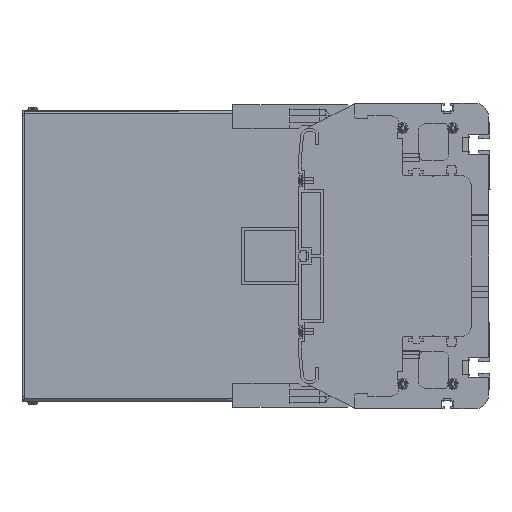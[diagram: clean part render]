
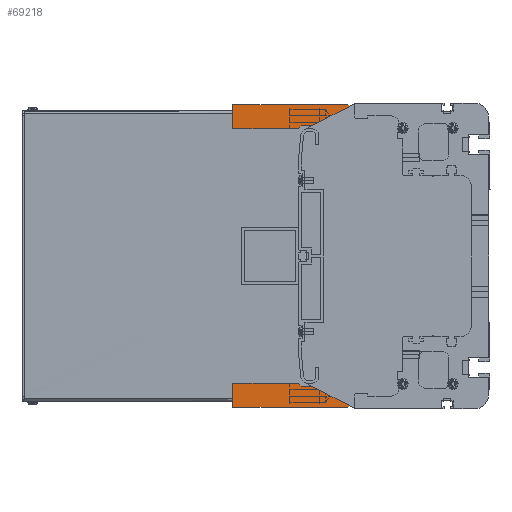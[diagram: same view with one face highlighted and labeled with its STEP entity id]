
A CAD part, left-side view. The second image highlights one B-rep face of the part: STEP entity #69218.
In plain terms, the highlighted planar face has unit normal (-1, 0, 0).
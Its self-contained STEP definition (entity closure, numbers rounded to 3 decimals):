
#64742=DIRECTION('',(0.,0.,1.));
#64743=VECTOR('',#64742,134.);
#64744=CARTESIAN_POINT('',(-434.5,111.,-67.));
#64745=LINE('',#64744,#64743);
#65007=DIRECTION('',(0.,1.,0.));
#65008=VECTOR('',#65007,46.);
#65009=CARTESIAN_POINT('',(-434.5,134.,-89.));
#65010=LINE('',#65009,#65008);
#65232=DIRECTION('',(0.,0.,1.));
#65233=VECTOR('',#65232,13.);
#65234=CARTESIAN_POINT('',(-434.5,114.5,-86.));
#65235=LINE('',#65234,#65233);
#65368=DIRECTION('',(0.,1.,0.));
#65369=VECTOR('',#65368,79.);
#65370=CARTESIAN_POINT('',(-434.5,101.,-106.));
#65371=LINE('',#65370,#65369);
#65372=DIRECTION('',(0.,-0.707,-0.707));
#65373=VECTOR('',#65372,2.828);
#65374=CARTESIAN_POINT('',(-434.5,134.,-89.));
#65375=LINE('',#65374,#65373);
#65376=CARTESIAN_POINT('',(-434.5,119.5,-86.));
#65377=DIRECTION('',(-1.,0.,0.));
#65378=DIRECTION('',(0.,0.,-1.));
#65379=AXIS2_PLACEMENT_3D('',#65376,#65377,#65378);
#65381=CARTESIAN_POINT('',(-434.5,119.5,86.));
#65382=DIRECTION('',(-1.,0.,0.));
#65383=DIRECTION('',(0.,-1.,0.));
#65384=AXIS2_PLACEMENT_3D('',#65381,#65382,#65383);
#65386=DIRECTION('',(0.,0.707,-0.707));
#65387=VECTOR('',#65386,2.828);
#65388=CARTESIAN_POINT('',(-434.5,132.,91.));
#65389=LINE('',#65388,#65387);
#65390=DIRECTION('',(0.,0.,-1.));
#65391=VECTOR('',#65390,17.);
#65392=CARTESIAN_POINT('',(-434.5,180.,106.));
#65393=LINE('',#65392,#65391);
#65394=DIRECTION('',(0.,-1.,0.));
#65395=VECTOR('',#65394,79.);
#65396=CARTESIAN_POINT('',(-434.5,180.,106.));
#65397=LINE('',#65396,#65395);
#65398=CARTESIAN_POINT('',(-434.5,101.,102.));
#65399=DIRECTION('',(1.,0.,0.));
#65400=DIRECTION('',(0.,0.,1.));
#65401=AXIS2_PLACEMENT_3D('',#65398,#65399,#65400);
#65403=CARTESIAN_POINT('',(-434.5,101.,-102.));
#65404=DIRECTION('',(1.,0.,0.));
#65405=DIRECTION('',(0.,-1.,0.));
#65406=AXIS2_PLACEMENT_3D('',#65403,#65404,#65405);
#65468=DIRECTION('',(0.,0.,1.));
#65469=VECTOR('',#65468,17.);
#65470=CARTESIAN_POINT('',(-434.5,180.,-106.));
#65471=LINE('',#65470,#65469);
#65664=DIRECTION('',(0.,0.,-1.));
#65665=VECTOR('',#65664,204.);
#65666=CARTESIAN_POINT('',(-434.5,97.,102.));
#65667=LINE('',#65666,#65665);
#66043=DIRECTION('',(0.,-1.,0.));
#66044=VECTOR('',#66043,46.);
#66045=CARTESIAN_POINT('',(-434.5,180.,89.));
#66046=LINE('',#66045,#66044);
#66094=DIRECTION('',(0.,1.,0.));
#66095=VECTOR('',#66094,12.5);
#66096=CARTESIAN_POINT('',(-434.5,119.5,91.));
#66097=LINE('',#66096,#66095);
#66164=DIRECTION('',(0.,0.,1.));
#66165=VECTOR('',#66164,13.);
#66166=CARTESIAN_POINT('',(-434.5,114.5,73.));
#66167=LINE('',#66166,#66165);
#66480=DIRECTION('',(0.,1.,0.));
#66481=VECTOR('',#66480,6.5);
#66482=CARTESIAN_POINT('',(-434.5,108.,73.));
#66483=LINE('',#66482,#66481);
#66488=DIRECTION('',(0.,0.,1.));
#66489=VECTOR('',#66488,6.);
#66490=CARTESIAN_POINT('',(-434.5,108.,67.));
#66491=LINE('',#66490,#66489);
#66496=DIRECTION('',(0.,-1.,0.));
#66497=VECTOR('',#66496,3.);
#66498=CARTESIAN_POINT('',(-434.5,111.,67.));
#66499=LINE('',#66498,#66497);
#67351=DIRECTION('',(0.,-1.,0.));
#67352=VECTOR('',#67351,12.5);
#67353=CARTESIAN_POINT('',(-434.5,132.,-91.));
#67354=LINE('',#67353,#67352);
#67355=DIRECTION('',(0.,-1.,0.));
#67356=VECTOR('',#67355,6.5);
#67357=CARTESIAN_POINT('',(-434.5,114.5,-73.));
#67358=LINE('',#67357,#67356);
#67367=DIRECTION('',(0.,0.,1.));
#67368=VECTOR('',#67367,6.);
#67369=CARTESIAN_POINT('',(-434.5,108.,-73.));
#67370=LINE('',#67369,#67368);
#67379=DIRECTION('',(0.,1.,0.));
#67380=VECTOR('',#67379,3.);
#67381=CARTESIAN_POINT('',(-434.5,108.,-67.));
#67382=LINE('',#67381,#67380);
#67667=CARTESIAN_POINT('',(-434.5,180.,106.));
#67669=VERTEX_POINT('',#67667);
#67673=CARTESIAN_POINT('',(-434.5,180.,89.));
#67674=VERTEX_POINT('',#67673);
#67688=CARTESIAN_POINT('',(-434.5,180.,-106.));
#67690=VERTEX_POINT('',#67688);
#67691=CARTESIAN_POINT('',(-434.5,180.,-89.));
#67692=VERTEX_POINT('',#67691);
#67707=CARTESIAN_POINT('',(-434.5,97.,102.));
#67708=CARTESIAN_POINT('',(-434.5,97.,-102.));
#67709=VERTEX_POINT('',#67707);
#67710=VERTEX_POINT('',#67708);
#67711=CARTESIAN_POINT('',(-434.5,101.,106.));
#67712=VERTEX_POINT('',#67711);
#67713=CARTESIAN_POINT('',(-434.5,132.,91.));
#67714=CARTESIAN_POINT('',(-434.5,134.,89.));
#67715=VERTEX_POINT('',#67713);
#67716=VERTEX_POINT('',#67714);
#67717=CARTESIAN_POINT('',(-434.5,119.5,91.));
#67718=VERTEX_POINT('',#67717);
#67719=CARTESIAN_POINT('',(-434.5,114.5,86.));
#67720=VERTEX_POINT('',#67719);
#67721=CARTESIAN_POINT('',(-434.5,114.5,73.));
#67722=VERTEX_POINT('',#67721);
#67723=CARTESIAN_POINT('',(-434.5,108.,73.));
#67724=VERTEX_POINT('',#67723);
#67725=CARTESIAN_POINT('',(-434.5,108.,67.));
#67726=VERTEX_POINT('',#67725);
#67727=CARTESIAN_POINT('',(-434.5,111.,67.));
#67728=VERTEX_POINT('',#67727);
#67729=CARTESIAN_POINT('',(-434.5,111.,-67.));
#67730=VERTEX_POINT('',#67729);
#67731=CARTESIAN_POINT('',(-434.5,108.,-67.));
#67732=VERTEX_POINT('',#67731);
#67733=CARTESIAN_POINT('',(-434.5,108.,-73.));
#67734=VERTEX_POINT('',#67733);
#67735=CARTESIAN_POINT('',(-434.5,114.5,-73.));
#67736=VERTEX_POINT('',#67735);
#67737=CARTESIAN_POINT('',(-434.5,114.5,-86.));
#67738=VERTEX_POINT('',#67737);
#67739=CARTESIAN_POINT('',(-434.5,119.5,-91.));
#67740=VERTEX_POINT('',#67739);
#67741=CARTESIAN_POINT('',(-434.5,132.,-91.));
#67742=VERTEX_POINT('',#67741);
#67743=CARTESIAN_POINT('',(-434.5,134.,-89.));
#67744=VERTEX_POINT('',#67743);
#67745=CARTESIAN_POINT('',(-434.5,101.,-106.));
#67746=VERTEX_POINT('',#67745);
#69167=CARTESIAN_POINT('',(-434.5,118.5,0.));
#69168=DIRECTION('',(1.,0.,0.));
#69169=DIRECTION('',(0.,0.,-1.));
#69170=AXIS2_PLACEMENT_3D('',#69167,#69168,#69169);
#69171=PLANE('',#69170);
#69173=ORIENTED_EDGE('',*,*,#69172,.T.);
#69175=ORIENTED_EDGE('',*,*,#69174,.T.);
#69176=ORIENTED_EDGE('',*,*,#68773,.F.);
#69178=ORIENTED_EDGE('',*,*,#69177,.T.);
#69180=ORIENTED_EDGE('',*,*,#69179,.T.);
#69181=ORIENTED_EDGE('',*,*,#69158,.T.);
#69182=ORIENTED_EDGE('',*,*,#69056,.T.);
#69184=ORIENTED_EDGE('',*,*,#69183,.T.);
#69186=ORIENTED_EDGE('',*,*,#69185,.T.);
#69188=ORIENTED_EDGE('',*,*,#69187,.T.);
#69189=ORIENTED_EDGE('',*,*,#68545,.T.);
#69191=ORIENTED_EDGE('',*,*,#69190,.T.);
#69193=ORIENTED_EDGE('',*,*,#69192,.T.);
#69195=ORIENTED_EDGE('',*,*,#69194,.T.);
#69197=ORIENTED_EDGE('',*,*,#69196,.T.);
#69199=ORIENTED_EDGE('',*,*,#69198,.T.);
#69201=ORIENTED_EDGE('',*,*,#69200,.T.);
#69203=ORIENTED_EDGE('',*,*,#69202,.T.);
#69205=ORIENTED_EDGE('',*,*,#69204,.F.);
#69207=ORIENTED_EDGE('',*,*,#69206,.F.);
#69209=ORIENTED_EDGE('',*,*,#69208,.T.);
#69211=ORIENTED_EDGE('',*,*,#69210,.T.);
#69213=ORIENTED_EDGE('',*,*,#69212,.T.);
#69215=ORIENTED_EDGE('',*,*,#69214,.T.);
#69216=EDGE_LOOP('',(#69173,#69175,#69176,#69178,#69180,#69181,#69182,#69184,
#69186,#69188,#69189,#69191,#69193,#69195,#69197,#69199,#69201,#69203,#69205,
#69207,#69209,#69211,#69213,#69215));
#69217=FACE_OUTER_BOUND('',#69216,.F.);
#69218=ADVANCED_FACE('',(#69217),#69171,.F.);
#65380=CIRCLE('',#65379,5.);
#65385=CIRCLE('',#65384,5.);
#65402=CIRCLE('',#65401,4.);
#65407=CIRCLE('',#65406,4.);
#68545=EDGE_CURVE('',#67730,#67728,#64745,.T.);
#68773=EDGE_CURVE('',#67744,#67692,#65010,.T.);
#69056=EDGE_CURVE('',#67738,#67736,#65235,.T.);
#69158=EDGE_CURVE('',#67740,#67738,#65380,.T.);
#69172=EDGE_CURVE('',#67746,#67690,#65371,.T.);
#69174=EDGE_CURVE('',#67690,#67692,#65471,.T.);
#69177=EDGE_CURVE('',#67744,#67742,#65375,.T.);
#69179=EDGE_CURVE('',#67742,#67740,#67354,.T.);
#69183=EDGE_CURVE('',#67736,#67734,#67358,.T.);
#69185=EDGE_CURVE('',#67734,#67732,#67370,.T.);
#69187=EDGE_CURVE('',#67732,#67730,#67382,.T.);
#69190=EDGE_CURVE('',#67728,#67726,#66499,.T.);
#69192=EDGE_CURVE('',#67726,#67724,#66491,.T.);
#69194=EDGE_CURVE('',#67724,#67722,#66483,.T.);
#69196=EDGE_CURVE('',#67722,#67720,#66167,.T.);
#69198=EDGE_CURVE('',#67720,#67718,#65385,.T.);
#69200=EDGE_CURVE('',#67718,#67715,#66097,.T.);
#69202=EDGE_CURVE('',#67715,#67716,#65389,.T.);
#69204=EDGE_CURVE('',#67674,#67716,#66046,.T.);
#69206=EDGE_CURVE('',#67669,#67674,#65393,.T.);
#69208=EDGE_CURVE('',#67669,#67712,#65397,.T.);
#69210=EDGE_CURVE('',#67712,#67709,#65402,.T.);
#69212=EDGE_CURVE('',#67709,#67710,#65667,.T.);
#69214=EDGE_CURVE('',#67710,#67746,#65407,.T.);
